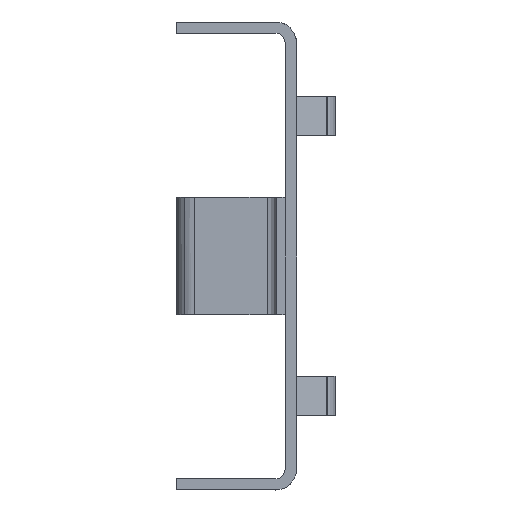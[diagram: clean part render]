
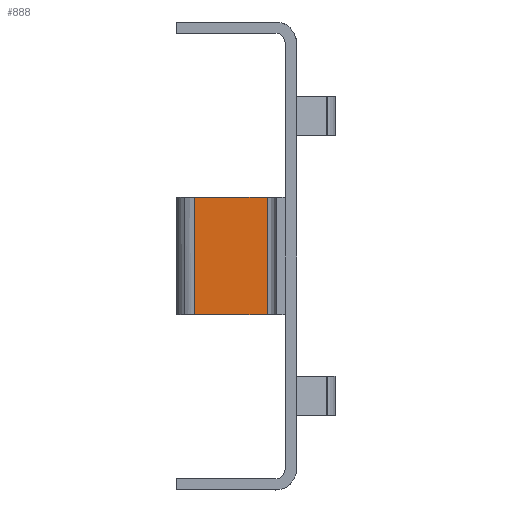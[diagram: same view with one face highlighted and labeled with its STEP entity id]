
A CAD part, front view. The second image highlights one B-rep face of the part: STEP entity #888.
In plain terms, the highlighted free-form (B-spline) face has degree [1, 1] with [2, 2] control points.
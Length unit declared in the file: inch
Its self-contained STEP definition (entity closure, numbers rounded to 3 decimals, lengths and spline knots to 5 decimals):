
#853=CARTESIAN_POINT('F4',(0.58118,0.65,
   -0.00118));
#854=CARTESIAN_POINT('F4',(0.11382,0.65,
   -0.00118));
#855=CARTESIAN_POINT('F4',(0.58118,0.65,
   0.75118));
#856=CARTESIAN_POINT('F4',(0.11382,0.65,
   0.75118));
#857=B_SPLINE_SURFACE_WITH_KNOTS('F4',1,1,((#853,#855),(#854,#856))
,.PLANE_SURF.,.F.,.F.,.U.,(2,2),(2,2),(0.0,1.0),(0.0,
   1.60981),.UNSPECIFIED.);
#858=CARTESIAN_POINT('V8',(0.115,0.65,
   0.));
#859=VERTEX_POINT('V8',#858);
#860=CARTESIAN_POINT('V7',(0.115,0.65,
   0.75));
#861=VERTEX_POINT('V7',#860);
#862=CARTESIAN_POINT('E7',(0.115,0.65,
   0.));
#863=CARTESIAN_POINT('E7',(0.115,0.65,
   0.75));
#864=QUASI_UNIFORM_CURVE('E7',1,(#862,#863),.POLYLINE_FORM.,.F.,.U.
   );
#865=EDGE_CURVE('E7',#859,#861,#864,.T.);
#866=ORIENTED_EDGE('E7',*,*,#865,.F.);
#867=CARTESIAN_POINT('V9',(0.58,0.65,0.0)
   );
#868=VERTEX_POINT('V9',#867);
#869=CARTESIAN_POINT('E8',(0.58,0.65,0.0)
   );
#870=CARTESIAN_POINT('E8',(0.115,0.65,0.0)
   );
#871=QUASI_UNIFORM_CURVE('E8',1,(#869,#870),.POLYLINE_FORM.,.F.,.U.
   );
#872=EDGE_CURVE('E8',#868,#859,#871,.T.);
#873=ORIENTED_EDGE('E8',*,*,#872,.F.);
#874=CARTESIAN_POINT('V6',(0.58,0.65,
   0.75));
#875=VERTEX_POINT('V6',#874);
#876=CARTESIAN_POINT('E9',(0.58,0.65,
   0.75));
#877=CARTESIAN_POINT('E9',(0.58,0.65,0.0)
   );
#878=QUASI_UNIFORM_CURVE('E9',1,(#876,#877),.POLYLINE_FORM.,.F.,.U.
   );
#879=EDGE_CURVE('E9',#875,#868,#878,.T.);
#880=ORIENTED_EDGE('E9',*,*,#879,.F.);
#881=CARTESIAN_POINT('E6',(0.115,0.65,
   0.75));
#882=CARTESIAN_POINT('E6',(0.58,0.65,
   0.75));
#883=QUASI_UNIFORM_CURVE('E6',1,(#881,#882),.POLYLINE_FORM.,.F.,.U.
   );
#884=EDGE_CURVE('E6',#861,#875,#883,.T.);
#885=ORIENTED_EDGE('E6',*,*,#884,.F.);
#886=EDGE_LOOP('F4',(#866,#873,#880,#885));
#887=FACE_OUTER_BOUND('F4',#886,.T.);
#888=ADVANCED_FACE('F4',(#887),#857,.F.);
